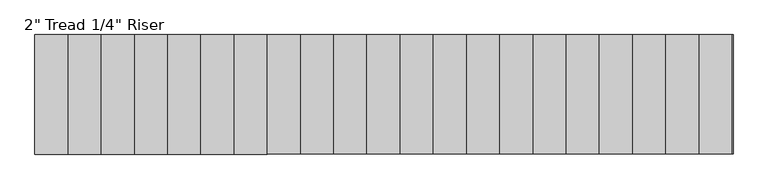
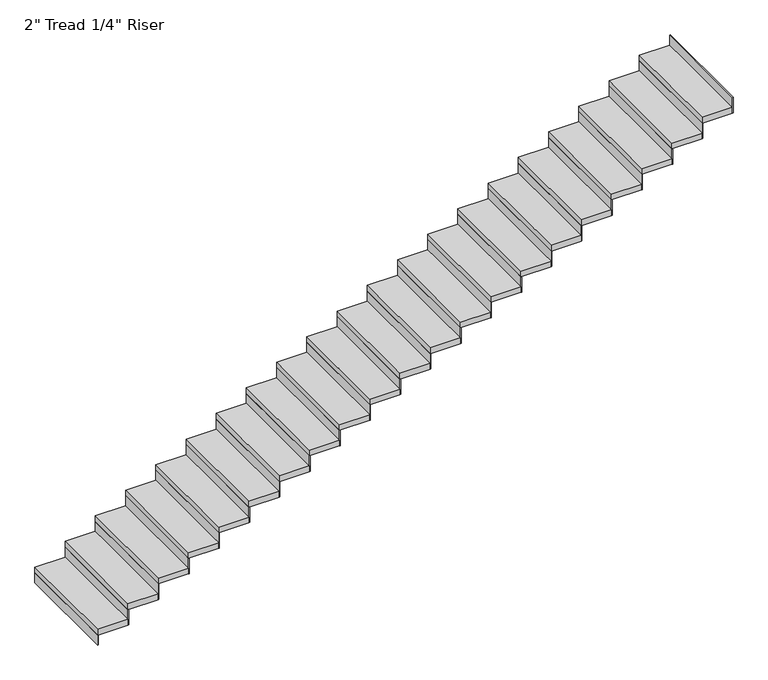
"""IFC4 building model written with IfcOpenShell, lengths in millimetres: stair flight geometry."""

from ifc_helpers import new_model, si_unit, frame, origin, origin_with_axes, place, context, project, spatial, polyline, outline, extrude, source, transform, mapped, element, save


def stair_flight_aaa9c3da(model_context):
    return source(origin(), model_context, "Body", "SweptSolid", [
        extrude(outline(polyline([(35788.2667764, -18868.6990002), (35781.9167764, -18868.6990002), (35781.9167764, -17954.2990002), (35788.2667764, -17954.2990002), (35788.2667764, -18868.6990002)])), origin_with_axes(), (0.0, 0.0, 1.0), 87.7454545),
        extrude(outline(polyline([(36035.9167764, -17954.2990002), (36035.9167764, -18868.6990002), (35781.9167764, -18868.6990002), (35781.9167764, -17954.2990002), (36035.9167764, -17954.2990002)])), frame((0.0, 0.0, 87.7454545), z_axis=(0.0, 0.0, 1.0), x_axis=(1.0, 0.0, 0.0)), (0.0, 0.0, 1.0), 50.8),
        extrude(outline(polyline([(36042.2667764, -18868.6990002), (36035.9167764, -18868.6990002), (36035.9167764, -17954.2990002), (36042.2667764, -17954.2990002), (36042.2667764, -18868.6990002)])), frame((0.0, 0.0, 87.7454545), z_axis=(0.0, 0.0, 1.0), x_axis=(1.0, 0.0, 0.0)), (0.0, 0.0, 1.0), 138.5454545),
        extrude(outline(polyline([(36289.9167764, -17954.2990002), (36289.9167764, -18868.6990002), (36035.9167764, -18868.6990002), (36035.9167764, -17954.2990002), (36289.9167764, -17954.2990002)])), frame((0.0, 0.0, 226.2909091), z_axis=(0.0, 0.0, 1.0), x_axis=(1.0, 0.0, 0.0)), (0.0, 0.0, 1.0), 50.8),
        extrude(outline(polyline([(36296.2667764, -18868.6990002), (36289.9167764, -18868.6990002), (36289.9167764, -17954.2990002), (36296.2667764, -17954.2990002), (36296.2667764, -18868.6990002)])), frame((0.0, 0.0, 226.2909091), z_axis=(0.0, 0.0, 1.0), x_axis=(1.0, 0.0, 0.0)), (0.0, 0.0, 1.0), 138.5454545),
        extrude(outline(polyline([(36543.9167764, -17954.2990002), (36543.9167764, -18868.6990002), (36289.9167764, -18868.6990002), (36289.9167764, -17954.2990002), (36543.9167764, -17954.2990002)])), frame((0.0, 0.0, 364.8363636), z_axis=(0.0, 0.0, 1.0), x_axis=(1.0, 0.0, 0.0)), (0.0, 0.0, 1.0), 50.8),
        extrude(outline(polyline([(36550.2667764, -18868.6990002), (36543.9167764, -18868.6990002), (36543.9167764, -17954.2990002), (36550.2667764, -17954.2990002), (36550.2667764, -18868.6990002)])), frame((0.0, 0.0, 364.8363636), z_axis=(0.0, 0.0, 1.0), x_axis=(1.0, 0.0, 0.0)), (0.0, 0.0, 1.0), 138.5454545),
        extrude(outline(polyline([(36797.9167764, -17954.2990002), (36797.9167764, -18868.6990002), (36543.9167764, -18868.6990002), (36543.9167764, -17954.2990002), (36797.9167764, -17954.2990002)])), frame((0.0, 0.0, 503.3818182), z_axis=(0.0, 0.0, 1.0), x_axis=(1.0, 0.0, 0.0)), (0.0, 0.0, 1.0), 50.8),
        extrude(outline(polyline([(36804.2667764, -18868.6990002), (36797.9167764, -18868.6990002), (36797.9167764, -17954.2990002), (36804.2667764, -17954.2990002), (36804.2667764, -18868.6990002)])), frame((0.0, 0.0, 503.3818182), z_axis=(0.0, 0.0, 1.0), x_axis=(1.0, 0.0, 0.0)), (0.0, 0.0, 1.0), 138.5454545),
        extrude(outline(polyline([(37051.9167764, -17954.2990002), (37051.9167764, -18868.6990002), (36797.9167764, -18868.6990002), (36797.9167764, -17954.2990002), (37051.9167764, -17954.2990002)])), frame((0.0, 0.0, 641.9272727), z_axis=(0.0, 0.0, 1.0), x_axis=(1.0, 0.0, 0.0)), (0.0, 0.0, 1.0), 50.8),
        extrude(outline(polyline([(37058.2667764, -18868.6990002), (37051.9167764, -18868.6990002), (37051.9167764, -17954.2990002), (37058.2667764, -17954.2990002), (37058.2667764, -18868.6990002)])), frame((0.0, 0.0, 641.9272727), z_axis=(0.0, 0.0, 1.0), x_axis=(1.0, 0.0, 0.0)), (0.0, 0.0, 1.0), 138.5454545),
        extrude(outline(polyline([(37305.9167764, -17954.2990002), (37305.9167764, -18868.6990002), (37051.9167764, -18868.6990002), (37051.9167764, -17954.2990002), (37305.9167764, -17954.2990002)])), frame((0.0, 0.0, 780.4727273), z_axis=(0.0, 0.0, 1.0), x_axis=(1.0, 0.0, 0.0)), (0.0, 0.0, 1.0), 50.8),
        extrude(outline(polyline([(37312.2667764, -18868.6990002), (37305.9167764, -18868.6990002), (37305.9167764, -17954.2990002), (37312.2667764, -17954.2990002), (37312.2667764, -18868.6990002)])), frame((0.0, 0.0, 780.4727273), z_axis=(0.0, 0.0, 1.0), x_axis=(1.0, 0.0, 0.0)), (0.0, 0.0, 1.0), 138.5454545),
        extrude(outline(polyline([(37559.9167764, -17954.2990002), (37559.9167764, -18868.6990002), (37305.9167764, -18868.6990002), (37305.9167764, -17954.2990002), (37559.9167764, -17954.2990002)])), frame((0.0, 0.0, 919.0181818), z_axis=(0.0, 0.0, 1.0), x_axis=(1.0, 0.0, 0.0)), (0.0, 0.0, 1.0), 50.8),
        extrude(outline(polyline([(37566.2667764, -18868.6990002), (37559.9167764, -18868.6990002), (37559.9167764, -17954.2990002), (37566.2667764, -17954.2990002), (37566.2667764, -18868.6990002)])), frame((0.0, 0.0, 919.0181818), z_axis=(0.0, 0.0, 1.0), x_axis=(1.0, 0.0, 0.0)), (0.0, 0.0, 1.0), 138.5454545),
        extrude(outline(polyline([(37813.9167764, -17954.2990002), (37813.9167764, -18868.6990002), (37559.9167764, -18868.6990002), (37559.9167764, -17954.2990002), (37813.9167764, -17954.2990002)])), frame((0.0, 0.0, 1057.5636364), z_axis=(0.0, 0.0, 1.0), x_axis=(1.0, 0.0, 0.0)), (0.0, 0.0, 1.0), 50.8),
        extrude(outline(polyline([(37820.2667764, -18868.6990002), (37813.9167764, -18868.6990002), (37813.9167764, -17954.2990002), (37820.2667764, -17954.2990002), (37820.2667764, -18868.6990002)])), frame((0.0, 0.0, 1057.5636364), z_axis=(0.0, 0.0, 1.0), x_axis=(1.0, 0.0, 0.0)), (0.0, 0.0, 1.0), 138.5454545),
        extrude(outline(polyline([(38067.9167764, -17954.2990002), (38067.9167764, -18868.6990002), (37813.9167764, -18868.6990002), (37813.9167764, -17954.2990002), (38067.9167764, -17954.2990002)])), frame((0.0, 0.0, 1196.1090909), z_axis=(0.0, 0.0, 1.0), x_axis=(1.0, 0.0, 0.0)), (0.0, 0.0, 1.0), 50.8),
        extrude(outline(polyline([(38074.2667764, -18868.6990002), (38067.9167764, -18868.6990002), (38067.9167764, -17954.2990002), (38074.2667764, -17954.2990002), (38074.2667764, -18868.6990002)])), frame((0.0, 0.0, 1196.1090909), z_axis=(0.0, 0.0, 1.0), x_axis=(1.0, 0.0, 0.0)), (0.0, 0.0, 1.0), 138.5454545),
        extrude(outline(polyline([(38321.9167764, -17954.2990002), (38321.9167764, -18868.6990002), (38067.9167764, -18868.6990002), (38067.9167764, -17954.2990002), (38321.9167764, -17954.2990002)])), frame((0.0, 0.0, 1334.6545455), z_axis=(0.0, 0.0, 1.0), x_axis=(1.0, 0.0, 0.0)), (0.0, 0.0, 1.0), 50.8),
        extrude(outline(polyline([(38328.2667764, -18868.6990002), (38321.9167764, -18868.6990002), (38321.9167764, -17954.2990002), (38328.2667764, -17954.2990002), (38328.2667764, -18868.6990002)])), frame((0.0, 0.0, 1334.6545455), z_axis=(0.0, 0.0, 1.0), x_axis=(1.0, 0.0, 0.0)), (0.0, 0.0, 1.0), 138.5454545),
        extrude(outline(polyline([(38575.9167764, -17954.2990002), (38575.9167764, -18868.6990002), (38321.9167764, -18868.6990002), (38321.9167764, -17954.2990002), (38575.9167764, -17954.2990002)])), frame((0.0, 0.0, 1473.2), z_axis=(0.0, 0.0, 1.0), x_axis=(1.0, 0.0, 0.0)), (0.0, 0.0, 1.0), 50.8),
        extrude(outline(polyline([(38582.2667764, -18868.6990002), (38575.9167764, -18868.6990002), (38575.9167764, -17954.2990002), (38582.2667764, -17954.2990002), (38582.2667764, -18868.6990002)])), frame((0.0, 0.0, 1473.2), z_axis=(0.0, 0.0, 1.0), x_axis=(1.0, 0.0, 0.0)), (0.0, 0.0, 1.0), 138.5454545),
        extrude(outline(polyline([(38829.9167764, -17954.2990002), (38829.9167764, -18868.6990002), (38575.9167764, -18868.6990002), (38575.9167764, -17954.2990002), (38829.9167764, -17954.2990002)])), frame((0.0, 0.0, 1611.7454545), z_axis=(0.0, 0.0, 1.0), x_axis=(1.0, 0.0, 0.0)), (0.0, 0.0, 1.0), 50.8),
        extrude(outline(polyline([(38836.2667764, -18868.6990002), (38829.9167764, -18868.6990002), (38829.9167764, -17954.2990002), (38836.2667764, -17954.2990002), (38836.2667764, -18868.6990002)])), frame((0.0, 0.0, 1611.7454545), z_axis=(0.0, 0.0, 1.0), x_axis=(1.0, 0.0, 0.0)), (0.0, 0.0, 1.0), 138.5454545),
        extrude(outline(polyline([(39083.9167764, -17954.2990002), (39083.9167764, -18868.6990002), (38829.9167764, -18868.6990002), (38829.9167764, -17954.2990002), (39083.9167764, -17954.2990002)])), frame((0.0, 0.0, 1750.2909091), z_axis=(0.0, 0.0, 1.0), x_axis=(1.0, 0.0, 0.0)), (0.0, 0.0, 1.0), 50.8),
        extrude(outline(polyline([(39090.2667764, -18868.6990002), (39083.9167764, -18868.6990002), (39083.9167764, -17954.2990002), (39090.2667764, -17954.2990002), (39090.2667764, -18868.6990002)])), frame((0.0, 0.0, 1750.2909091), z_axis=(0.0, 0.0, 1.0), x_axis=(1.0, 0.0, 0.0)), (0.0, 0.0, 1.0), 138.5454545),
        extrude(outline(polyline([(39337.9167764, -17954.2990002), (39337.9167764, -18868.6990002), (39083.9167764, -18868.6990002), (39083.9167764, -17954.2990002), (39337.9167764, -17954.2990002)])), frame((0.0, 0.0, 1888.8363636), z_axis=(0.0, 0.0, 1.0), x_axis=(1.0, 0.0, 0.0)), (0.0, 0.0, 1.0), 50.8),
        extrude(outline(polyline([(39344.2667764, -18868.6990002), (39337.9167764, -18868.6990002), (39337.9167764, -17954.2990002), (39344.2667764, -17954.2990002), (39344.2667764, -18868.6990002)])), frame((0.0, 0.0, 1888.8363636), z_axis=(0.0, 0.0, 1.0), x_axis=(1.0, 0.0, 0.0)), (0.0, 0.0, 1.0), 138.5454545),
        extrude(outline(polyline([(39591.9167764, -17954.2990002), (39591.9167764, -18868.6990002), (39337.9167764, -18868.6990002), (39337.9167764, -17954.2990002), (39591.9167764, -17954.2990002)])), frame((0.0, 0.0, 2027.3818182), z_axis=(0.0, 0.0, 1.0), x_axis=(1.0, 0.0, 0.0)), (0.0, 0.0, 1.0), 50.8),
        extrude(outline(polyline([(39598.2667764, -18868.6990002), (39591.9167764, -18868.6990002), (39591.9167764, -17954.2990002), (39598.2667764, -17954.2990002), (39598.2667764, -18868.6990002)])), frame((0.0, 0.0, 2027.3818182), z_axis=(0.0, 0.0, 1.0), x_axis=(1.0, 0.0, 0.0)), (0.0, 0.0, 1.0), 138.5454545),
        extrude(outline(polyline([(39845.9167764, -17954.2990002), (39845.9167764, -18868.6990002), (39591.9167764, -18868.6990002), (39591.9167764, -17954.2990002), (39845.9167764, -17954.2990002)])), frame((0.0, 0.0, 2165.9272727), z_axis=(0.0, 0.0, 1.0), x_axis=(1.0, 0.0, 0.0)), (0.0, 0.0, 1.0), 50.8),
        extrude(outline(polyline([(39852.2667764, -18868.6990002), (39845.9167764, -18868.6990002), (39845.9167764, -17954.2990002), (39852.2667764, -17954.2990002), (39852.2667764, -18868.6990002)])), frame((0.0, 0.0, 2165.9272727), z_axis=(0.0, 0.0, 1.0), x_axis=(1.0, 0.0, 0.0)), (0.0, 0.0, 1.0), 138.5454545),
        extrude(outline(polyline([(40099.9167764, -17954.2990002), (40099.9167764, -18868.6990002), (39845.9167764, -18868.6990002), (39845.9167764, -17954.2990002), (40099.9167764, -17954.2990002)])), frame((0.0, 0.0, 2304.4727273), z_axis=(0.0, 0.0, 1.0), x_axis=(1.0, 0.0, 0.0)), (0.0, 0.0, 1.0), 50.8),
        extrude(outline(polyline([(40106.2667764, -18868.6990002), (40099.9167764, -18868.6990002), (40099.9167764, -17954.2990002), (40106.2667764, -17954.2990002), (40106.2667764, -18868.6990002)])), frame((0.0, 0.0, 2304.4727273), z_axis=(0.0, 0.0, 1.0), x_axis=(1.0, 0.0, 0.0)), (0.0, 0.0, 1.0), 138.5454545),
        extrude(outline(polyline([(40353.9167764, -17954.2990002), (40353.9167764, -18868.6990002), (40099.9167764, -18868.6990002), (40099.9167764, -17954.2990002), (40353.9167764, -17954.2990002)])), frame((0.0, 0.0, 2443.0181818), z_axis=(0.0, 0.0, 1.0), x_axis=(1.0, 0.0, 0.0)), (0.0, 0.0, 1.0), 50.8),
        extrude(outline(polyline([(40360.2667764, -18868.6990002), (40353.9167764, -18868.6990002), (40353.9167764, -17954.2990002), (40360.2667764, -17954.2990002), (40360.2667764, -18868.6990002)])), frame((0.0, 0.0, 2443.0181818), z_axis=(0.0, 0.0, 1.0), x_axis=(1.0, 0.0, 0.0)), (0.0, 0.0, 1.0), 138.5454545),
        extrude(outline(polyline([(40607.9167764, -17954.2990002), (40607.9167764, -18868.6990002), (40353.9167764, -18868.6990002), (40353.9167764, -17954.2990002), (40607.9167764, -17954.2990002)])), frame((0.0, 0.0, 2581.5636364), z_axis=(0.0, 0.0, 1.0), x_axis=(1.0, 0.0, 0.0)), (0.0, 0.0, 1.0), 50.8),
        extrude(outline(polyline([(40614.2667764, -18868.6990002), (40607.9167764, -18868.6990002), (40607.9167764, -17954.2990002), (40614.2667764, -17954.2990002), (40614.2667764, -18868.6990002)])), frame((0.0, 0.0, 2581.5636364), z_axis=(0.0, 0.0, 1.0), x_axis=(1.0, 0.0, 0.0)), (0.0, 0.0, 1.0), 138.5454545),
        extrude(outline(polyline([(40861.9167764, -17954.2990002), (40861.9167764, -18868.6990002), (40607.9167764, -18868.6990002), (40607.9167764, -17954.2990002), (40861.9167764, -17954.2990002)])), frame((0.0, 0.0, 2720.1090909), z_axis=(0.0, 0.0, 1.0), x_axis=(1.0, 0.0, 0.0)), (0.0, 0.0, 1.0), 50.8),
        extrude(outline(polyline([(40868.2667764, -18868.6990002), (40861.9167764, -18868.6990002), (40861.9167764, -17954.2990002), (40868.2667764, -17954.2990002), (40868.2667764, -18868.6990002)])), frame((0.0, 0.0, 2720.1090909), z_axis=(0.0, 0.0, 1.0), x_axis=(1.0, 0.0, 0.0)), (0.0, 0.0, 1.0), 138.5454545),
        extrude(outline(polyline([(41122.2667764, -18868.6990002), (41115.9167764, -18868.6990002), (41115.9167764, -17954.2990002), (41122.2667764, -17954.2990002), (41122.2667764, -18868.6990002)])), frame((0.0, 0.0, 2858.6545455), z_axis=(0.0, 0.0, 1.0), x_axis=(1.0, 0.0, 0.0)), (0.0, 0.0, 1.0), 138.5454545),
        extrude(outline(polyline([(41115.9167764, -17954.2990002), (41115.9167764, -18868.6990002), (40861.9167764, -18868.6990002), (40861.9167764, -17954.2990002), (41115.9167764, -17954.2990002)])), frame((0.0, 0.0, 2858.6545455), z_axis=(0.0, 0.0, 1.0), x_axis=(1.0, 0.0, 0.0)), (0.0, 0.0, 1.0), 50.8),
    ])


if __name__ == "__main__":
    model = new_model("IFC4")
    model_context = context("Model", 3, world=origin())
    ifc_project = project(units=[si_unit("LENGTHUNIT", "METRE", prefix="MILLI")], contexts=[model_context])
    site = spatial("IfcSite", under=ifc_project)
    building = spatial("IfcBuilding", under=site)
    placement = place(None, origin())
    stair_flight_shape = stair_flight_aaa9c3da(model_context)
    element("IfcStairFlight", 1, ObjectType="2\" Tread 1/4\" Riser", at=placement, inside=building, context=model_context, shape_type="MappedRepresentation", body=[
        mapped(stair_flight_shape, transform((0.0, 0.0, 0.0), x_axis=(1.0, 0.0, 0.0), y_axis=(0.0, 1.0, 0.0), z_axis=(0.0, 0.0, 1.0))),
    ])
    save(model, "model.ifc")
